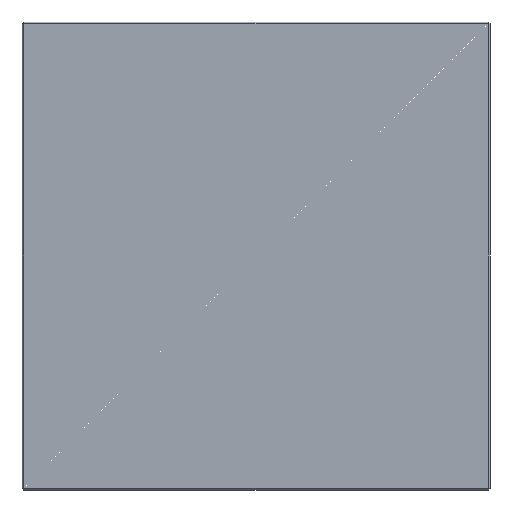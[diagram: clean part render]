
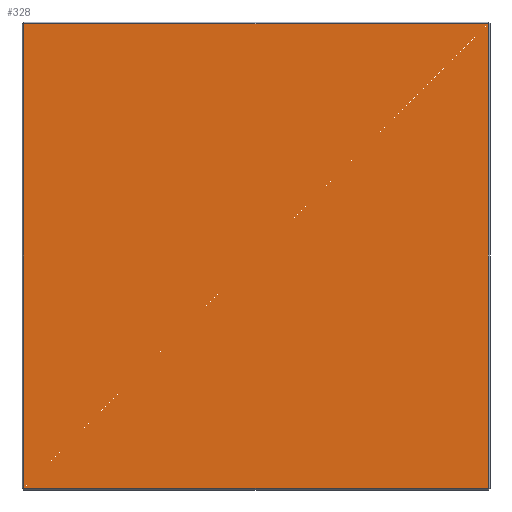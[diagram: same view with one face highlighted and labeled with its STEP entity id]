
A CAD part, front view. The second image highlights one B-rep face of the part: STEP entity #328.
In plain terms, the highlighted planar face has unit normal (0, -1, 0).
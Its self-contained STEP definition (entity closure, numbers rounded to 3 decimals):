
#16 = CARTESIAN_POINT ( 'NONE',  ( 122., 0., 0. ) ) ;
#38 = ORIENTED_EDGE ( 'NONE', *, *, #87, .T. ) ;
#52 = DIRECTION ( 'NONE',  ( 0., 0., 1. ) ) ;
#66 = CARTESIAN_POINT ( 'NONE',  ( -122., 0., -122. ) ) ;
#87 = EDGE_CURVE ( 'NONE', #222, #576, #201, .T. ) ;
#104 = EDGE_CURVE ( 'NONE', #318, #222, #133, .T. ) ;
#133 = LINE ( 'NONE', #484, #204 ) ;
#167 = EDGE_CURVE ( 'NONE', #252, #318, #450, .T. ) ;
#183 = CARTESIAN_POINT ( 'NONE',  ( -122., 0., 122. ) ) ;
#191 = VECTOR ( 'NONE', #595, 1000. ) ;
#201 = LINE ( 'NONE', #434, #191 ) ;
#204 = VECTOR ( 'NONE', #369, 1000. ) ;
#222 = VERTEX_POINT ( 'NONE', #66 ) ;
#228 = EDGE_CURVE ( 'NONE', #576, #252, #405, .T. ) ;
#252 = VERTEX_POINT ( 'NONE', #427 ) ;
#254 = EDGE_LOOP ( 'NONE', ( #332, #577, #526, #38 ) ) ;
#305 = VECTOR ( 'NONE', #391, 1000. ) ;
#318 = VERTEX_POINT ( 'NONE', #183 ) ;
#323 = VECTOR ( 'NONE', #52, 1000. ) ;
#328 = ADVANCED_FACE ( 'NONE', ( #622 ), #546, .F. ) ;
#332 = ORIENTED_EDGE ( 'NONE', *, *, #228, .T. ) ;
#352 = CARTESIAN_POINT ( 'NONE',  ( 0., 0., 122. ) ) ;
#369 = DIRECTION ( 'NONE',  ( 0., 0., -1. ) ) ;
#371 = AXIS2_PLACEMENT_3D ( 'NONE', #508, #380, #554 ) ;
#380 = DIRECTION ( 'NONE',  ( 0., 1., 0. ) ) ;
#391 = DIRECTION ( 'NONE',  ( -1., 0., 0. ) ) ;
#405 = LINE ( 'NONE', #16, #323 ) ;
#427 = CARTESIAN_POINT ( 'NONE',  ( 122., 0., 122. ) ) ;
#434 = CARTESIAN_POINT ( 'NONE',  ( 0., 0., -122. ) ) ;
#450 = LINE ( 'NONE', #352, #305 ) ;
#484 = CARTESIAN_POINT ( 'NONE',  ( -122., 0., 0. ) ) ;
#508 = CARTESIAN_POINT ( 'NONE',  ( 0., 0., 0. ) ) ;
#526 = ORIENTED_EDGE ( 'NONE', *, *, #104, .T. ) ;
#546 = PLANE ( 'NONE',  #371 ) ;
#554 = DIRECTION ( 'NONE',  ( 0., 0., 1. ) ) ;
#576 = VERTEX_POINT ( 'NONE', #630 ) ;
#577 = ORIENTED_EDGE ( 'NONE', *, *, #167, .T. ) ;
#595 = DIRECTION ( 'NONE',  ( 1., 0., 0. ) ) ;
#622 = FACE_OUTER_BOUND ( 'NONE', #254, .T. ) ;
#630 = CARTESIAN_POINT ( 'NONE',  ( 122., 0., -122. ) ) ;
